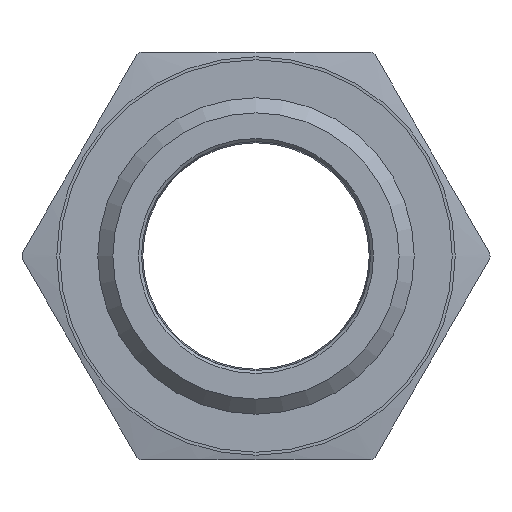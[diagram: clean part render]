
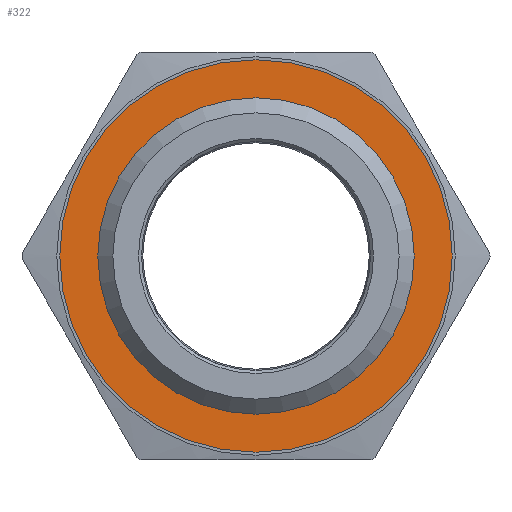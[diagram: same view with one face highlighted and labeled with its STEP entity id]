
A CAD part, left-side view. The second image highlights one B-rep face of the part: STEP entity #322.
In plain terms, the highlighted planar face has unit normal (-1, 0, 0).
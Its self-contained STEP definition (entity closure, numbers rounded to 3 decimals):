
#265=PLANE('',#1202);
#322=ADVANCED_FACE('',(#424,#425),#265,.F.);
#424=FACE_BOUND('',#492,.T.);
#425=FACE_BOUND('',#493,.T.);
#492=EDGE_LOOP('',(#611));
#493=EDGE_LOOP('',(#612));
#611=ORIENTED_EDGE('',*,*,#974,.F.);
#612=ORIENTED_EDGE('',*,*,#987,.T.);
#871=VERTEX_POINT('',#1673);
#884=VERTEX_POINT('',#1707);
#974=EDGE_CURVE('',#871,#871,#1104,.T.);
#987=EDGE_CURVE('',#884,#884,#1115,.T.);
#1104=CIRCLE('',#1181,13.);
#1115=CIRCLE('',#1200,9.2);
#1181=AXIS2_PLACEMENT_3D('',#1672,#1359,#1360);
#1200=AXIS2_PLACEMENT_3D('',#1706,#1399,#1400);
#1202=AXIS2_PLACEMENT_3D('',#1709,#1403,#1404);
#1359=DIRECTION('',(1.,0.,0.));
#1360=DIRECTION('',(0.,1.,0.));
#1399=DIRECTION('',(1.,0.,0.));
#1400=DIRECTION('',(0.,1.,0.));
#1403=DIRECTION('',(1.,0.,0.));
#1404=DIRECTION('',(0.,1.,0.));
#1672=CARTESIAN_POINT('',(12.,0.,0.));
#1673=CARTESIAN_POINT('',(12.,13.,0.));
#1706=CARTESIAN_POINT('',(12.,0.,0.));
#1707=CARTESIAN_POINT('',(12.,9.2,0.));
#1709=CARTESIAN_POINT('',(12.,9.2,0.));
